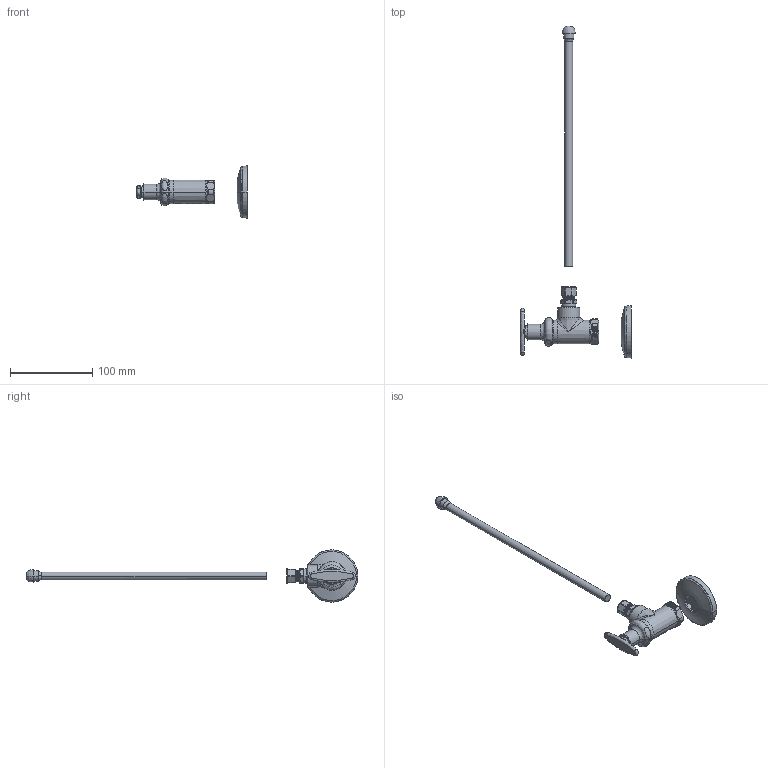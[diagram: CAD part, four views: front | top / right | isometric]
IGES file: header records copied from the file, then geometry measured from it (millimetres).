
Start section:  PTC IGES file: 1017-CP_REV031010.igs
Global section: file name: 1017-CP_REV031010.igs; native system: Pro/ENGINEER by Parametric Technology Corporation; preprocessor: 2009230; author: sdmitruk; organization: Unknown; date: 20100310.095541; units: inch
Bounding box: 134.66 x 403.61 x 63.5 mm (x, y, z)
Surface area: 39251 mm2 (no closed solid volume)
Topology: 0 solids, 18 shells, 291 faces, 790 edges, 511 vertices
Faces by surface type: revolution 173, bspline 118
